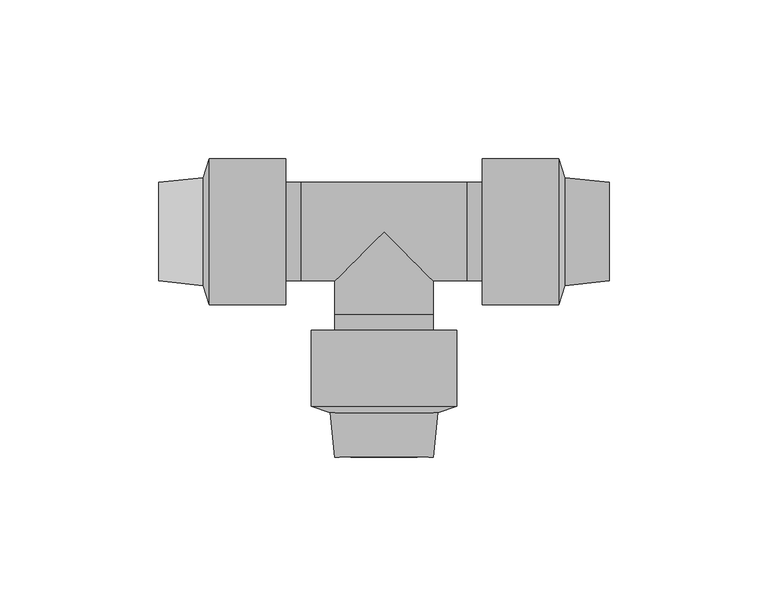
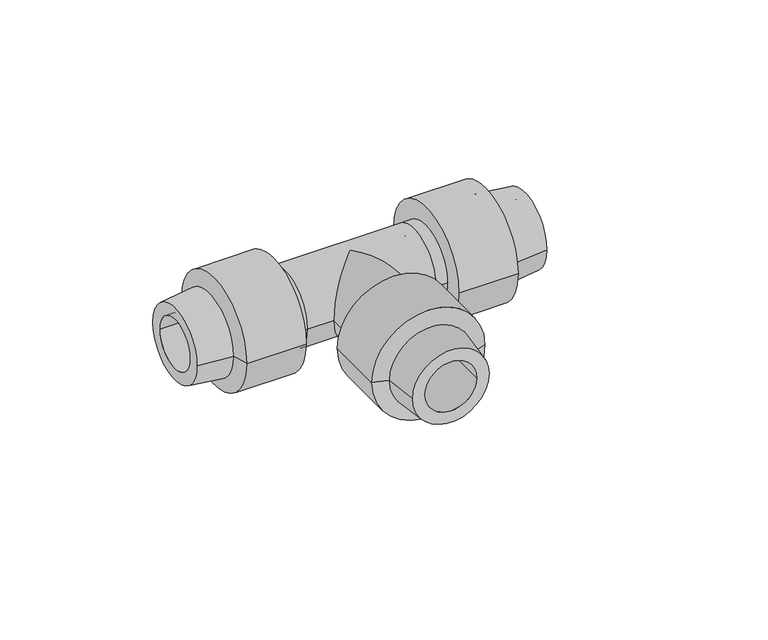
"""IFC4 building model written with IfcOpenShell, lengths in millimetres: pipe fitting geometry, Pipelife - PE - Trójnik : Pipelife - PE - Trójnik."""

from ifc_helpers import new_model, si_unit, frame, origin, place, context, project, spatial, polyline, circle_curve, ellipse_curve, source, transform, mapped, element, save
from ifc_brep_helpers import plane_surface, cylinder_surface, revolved_surface, advanced_brep


def pipe_fitting_46814463(model_context):
    return source(origin(), model_context, "Body", "AdvancedBrep", [
        advanced_brep(
        [(-23.0, -31.0, 0.0), (23.0, -31.0, 0.0), (10.5, -31.0, 0.0), (-10.5, -31.0, 0.0), (-23.0, -55.0, 0.0), (23.0, -55.0, 0.0), (-10.5, -71.0, 0.0), (10.5, -71.0, 0.0), (17.0, -57.0, 0.0), (-17.0, -57.0, 0.0), (-15.5, -71.0, 0.0), (15.5, -71.0, 0.0)],
        [
            (0, 1, circle_curve(frame((0.0, -31.0, 0.0), z_axis=(0.0, 1.0, 0.0), x_axis=(1.0, 0.0, 0.0)), 23.0)),
            (1, 0, circle_curve(frame((0.0, -31.0, 0.0), z_axis=(0.0, 1.0, 0.0), x_axis=(1.0, 0.0, 0.0)), 23.0)),
            (2, 3, circle_curve(frame((0.0, -31.0, 0.0), z_axis=(0.0, -1.0, 0.0), x_axis=(1.0, 0.0, 0.0)), 10.5)),
            (3, 2, circle_curve(frame((0.0, -31.0, 0.0), z_axis=(0.0, -1.0, 0.0), x_axis=(1.0, 0.0, 0.0)), 10.5)),
            (0, 4),
            (4, 5, circle_curve(frame((0.0, -55.0, 0.0), z_axis=(0.0, 1.0, 0.0), x_axis=(1.0, 0.0, 0.0)), 23.0)),
            (5, 1),
            (5, 4, circle_curve(frame((0.0, -55.0, 0.0), z_axis=(0.0, 1.0, 0.0), x_axis=(1.0, 0.0, 0.0)), 23.0)),
            (6, 3),
            (2, 7),
            (7, 6, circle_curve(frame((0.0, -71.0, 0.0), z_axis=(0.0, -1.0, 0.0), x_axis=(1.0, 0.0, 0.0)), 10.5)),
            (6, 7, circle_curve(frame((0.0, -71.0, 0.0), z_axis=(0.0, -1.0, 0.0), x_axis=(1.0, 0.0, 0.0)), 10.5)),
            (5, 8),
            (8, 9, circle_curve(frame((0.0, -57.0, 0.0), z_axis=(0.0, 1.0, 0.0), x_axis=(-1.0, 0.0, 0.0)), 17.0)),
            (9, 4),
            (9, 8, circle_curve(frame((0.0, -57.0, 0.0), z_axis=(0.0, 1.0, 0.0), x_axis=(1.0, 0.0, 0.0)), 17.0)),
            (10, 11, circle_curve(frame((0.0, -71.0, 0.0), z_axis=(0.0, -1.0, 0.0), x_axis=(-1.0, 0.0, 0.0)), 15.5)),
            (11, 10, circle_curve(frame((0.0, -71.0, 0.0), z_axis=(0.0, -1.0, 0.0), x_axis=(1.0, 0.0, 0.0)), 15.5)),
            (10, 9),
            (8, 11),
        ],
        [
            plane_surface(frame((0.0, -31.0, 0.0), z_axis=(0.0, 1.0, 0.0), x_axis=(0.0, 0.0, 1.0))),
            cylinder_surface(frame((0.0, -31.0, 0.0), z_axis=(0.0, 1.0, 0.0), x_axis=(1.0, 0.0, 0.0)), 23.0),
            revolved_surface(polyline([(10.5, -31.0, 0.0), (10.5, -71.0, 0.0)]), (0.0, -14.0, 0.0), (0.0, 1.0, 0.0)),
            revolved_surface(polyline([(17.00000002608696, -57.0, 0.0), (23.0, -55.0, 0.0)]), (0.0, -62.6666667, 0.0), (0.0, 1.0, 0.0)),
            plane_surface(frame((0.0, -71.0, 0.0), z_axis=(0.0, -1.0, 0.0), x_axis=(0.0, 0.0, -1.0))),
            revolved_surface(polyline([(-15.500000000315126, -71.0, 0.0), (-17.0, -57.0, 0.0)]), (0.0, -215.6666667, 0.0), (0.0, 1.0, 0.0)),
            revolved_surface(polyline([(15.500000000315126, -71.0, 0.0), (17.0, -57.0, 0.0)]), (0.0, -215.6666667, 0.0), (0.0, 1.0, 0.0)),
        ],
        [
            (0, [[1, 2], [3, 4]]),
            (1, [[-1, 5, 6, 7]]),
            (1, [[-2, -7, 8, -5]]),
            (2, [[9, -3, 10, 11]]),
            (2, [[-9, 12, -10, -4]]),
            (3, [[13, 14, 15, -8]]),
            (3, [[-13, -6, -15, 16]]),
            (4, [[17, 18], [-11, -12]]),
            (5, [[-17, 19, -14, 20]]),
            (6, [[-18, -20, -16, -19]]),
        ],
    ),
        advanced_brep(
        [(31.0, -23.0, 0.0), (31.0, 23.0, 0.0), (31.0, 10.5, 0.0), (31.0, -10.5, 0.0), (55.0, -23.0, 0.0), (55.0, 23.0, 0.0), (71.0, -10.5, 0.0), (71.0, 10.5, 0.0), (57.0, 17.0, 0.0), (57.0, -17.0, 0.0), (71.0, -15.5, 0.0), (71.0, 15.5, 0.0)],
        [
            (0, 1, circle_curve(frame((31.0, 0.0, 0.0), z_axis=(-1.0, 0.0, 0.0), x_axis=(0.0, 1.0, 0.0)), 23.0)),
            (1, 0, circle_curve(frame((31.0, 0.0, 0.0), z_axis=(-1.0, 0.0, 0.0), x_axis=(0.0, 1.0, 0.0)), 23.0)),
            (2, 3, circle_curve(frame((31.0, 0.0, 0.0), z_axis=(1.0, 0.0, 0.0), x_axis=(0.0, 1.0, 0.0)), 10.5)),
            (3, 2, circle_curve(frame((31.0, 0.0, 0.0), z_axis=(1.0, 0.0, 0.0), x_axis=(0.0, 1.0, 0.0)), 10.5)),
            (0, 4),
            (4, 5, circle_curve(frame((55.0, 0.0, 0.0), z_axis=(-1.0, 0.0, 0.0), x_axis=(0.0, 1.0, 0.0)), 23.0)),
            (5, 1),
            (5, 4, circle_curve(frame((55.0, 0.0, 0.0), z_axis=(-1.0, 0.0, 0.0), x_axis=(0.0, 1.0, 0.0)), 23.0)),
            (6, 3),
            (2, 7),
            (7, 6, circle_curve(frame((71.0, 0.0, 0.0), z_axis=(1.0, 0.0, 0.0), x_axis=(0.0, 1.0, 0.0)), 10.5)),
            (6, 7, circle_curve(frame((71.0, 0.0, 0.0), z_axis=(1.0, 0.0, 0.0), x_axis=(0.0, 1.0, 0.0)), 10.5)),
            (5, 8),
            (8, 9, circle_curve(frame((57.0, 0.0, 0.0), z_axis=(-1.0, 0.0, 0.0), x_axis=(0.0, -1.0, 0.0)), 17.0)),
            (9, 4),
            (9, 8, circle_curve(frame((57.0, 0.0, 0.0), z_axis=(-1.0, 0.0, 0.0), x_axis=(0.0, 1.0, 0.0)), 17.0)),
            (10, 11, circle_curve(frame((71.0, 0.0, 0.0), z_axis=(1.0, 0.0, 0.0), x_axis=(0.0, -1.0, 0.0)), 15.5)),
            (11, 10, circle_curve(frame((71.0, 0.0, 0.0), z_axis=(1.0, 0.0, 0.0), x_axis=(0.0, 1.0, 0.0)), 15.5)),
            (10, 9),
            (8, 11),
        ],
        [
            plane_surface(frame((31.0, 0.0, 0.0), z_axis=(-1.0, 0.0, 0.0), x_axis=(0.0, 0.0, 1.0))),
            cylinder_surface(frame((31.0, 0.0, 0.0), z_axis=(-1.0, 0.0, 0.0), x_axis=(0.0, 1.0, 0.0)), 23.0),
            revolved_surface(polyline([(31.0, 10.5, 0.0), (71.0, 10.5, 0.0)]), (14.0, 0.0, 0.0), (-1.0, 0.0, 0.0)),
            revolved_surface(polyline([(57.0, 17.00000002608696, 0.0), (55.0, 23.0, 0.0)]), (62.6666667, 0.0, 0.0), (-1.0, 0.0, 0.0)),
            plane_surface(frame((71.0, 0.0, 0.0), z_axis=(1.0, 0.0, 0.0), x_axis=(0.0, 0.0, -1.0))),
            revolved_surface(polyline([(71.0, -15.500000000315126, 0.0), (57.0, -17.0, 0.0)]), (215.6666667, 0.0, 0.0), (-1.0, 0.0, 0.0)),
            revolved_surface(polyline([(71.0, 15.500000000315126, 0.0), (57.0, 17.0, 0.0)]), (215.6666667, 0.0, 0.0), (-1.0, 0.0, 0.0)),
        ],
        [
            (0, [[1, 2], [3, 4]]),
            (1, [[-1, 5, 6, 7]]),
            (1, [[-2, -7, 8, -5]]),
            (2, [[9, -3, 10, 11]]),
            (2, [[-9, 12, -10, -4]]),
            (3, [[13, 14, 15, -8]]),
            (3, [[-13, -6, -15, 16]]),
            (4, [[17, 18], [-11, -12]]),
            (5, [[-17, 19, -14, 20]]),
            (6, [[-18, -20, -16, -19]]),
        ],
    ),
        advanced_brep(
        [(-31.0, -23.0, 0.0), (-31.0, 23.0, 0.0), (-31.0, -10.5, 0.0), (-31.0, 10.5, 0.0), (-55.0, 23.0, 0.0), (-55.0, -23.0, 0.0), (-71.0, -10.5, 0.0), (-71.0, 10.5, 0.0), (-57.0, -17.0, 0.0), (-57.0, 17.0, 0.0), (-71.0, 15.5, 0.0), (-71.0, -15.5, 0.0)],
        [
            (0, 1, circle_curve(frame((-31.0, 0.0, 0.0), z_axis=(1.0, 0.0, 0.0), x_axis=(0.0, 1.0, 0.0)), 23.0)),
            (1, 0, circle_curve(frame((-31.0, 0.0, 0.0), z_axis=(1.0, 0.0, 0.0), x_axis=(0.0, 1.0, 0.0)), 23.0)),
            (2, 3, circle_curve(frame((-31.0, 0.0, 0.0), z_axis=(-1.0, 0.0, 0.0), x_axis=(0.0, 1.0, 0.0)), 10.5)),
            (3, 2, circle_curve(frame((-31.0, 0.0, 0.0), z_axis=(-1.0, 0.0, 0.0), x_axis=(0.0, 1.0, 0.0)), 10.5)),
            (1, 4),
            (4, 5, circle_curve(frame((-55.0, 0.0, 0.0), z_axis=(1.0, 0.0, 0.0), x_axis=(0.0, 1.0, 0.0)), 23.0)),
            (5, 0),
            (5, 4, circle_curve(frame((-55.0, 0.0, 0.0), z_axis=(1.0, 0.0, 0.0), x_axis=(0.0, 1.0, 0.0)), 23.0)),
            (2, 6),
            (6, 7, circle_curve(frame((-71.0, 0.0, 0.0), z_axis=(-1.0, 0.0, 0.0), x_axis=(0.0, 1.0, 0.0)), 10.5)),
            (7, 3),
            (7, 6, circle_curve(frame((-71.0, 0.0, 0.0), z_axis=(-1.0, 0.0, 0.0), x_axis=(0.0, 1.0, 0.0)), 10.5)),
            (5, 8),
            (8, 9, circle_curve(frame((-57.0, 0.0, 0.0), z_axis=(1.0, 0.0, 0.0), x_axis=(0.0, 1.0, 0.0)), 17.0)),
            (9, 4),
            (9, 8, circle_curve(frame((-57.0, 0.0, 0.0), z_axis=(1.0, 0.0, 0.0), x_axis=(0.0, -1.0, 0.0)), 17.0)),
            (10, 11, circle_curve(frame((-71.0, 0.0, 0.0), z_axis=(-1.0, 0.0, 0.0), x_axis=(0.0, 1.0, 0.0)), 15.5)),
            (11, 10, circle_curve(frame((-71.0, 0.0, 0.0), z_axis=(-1.0, 0.0, 0.0), x_axis=(0.0, -1.0, 0.0)), 15.5)),
            (10, 9),
            (8, 11),
        ],
        [
            plane_surface(frame((-31.0, 0.0, 0.0), z_axis=(1.0, 0.0, 0.0), x_axis=(0.0, 0.0, 1.0))),
            cylinder_surface(frame((-55.0, 0.0, 0.0), z_axis=(-1.0, 0.0, 0.0), x_axis=(0.0, 1.0, 0.0)), 23.0),
            revolved_surface(polyline([(-71.0, 10.5, 0.0), (-31.0, 10.5, 0.0)]), (-71.0, 0.0, 0.0), (-1.0, 0.0, 0.0)),
            revolved_surface(polyline([(-57.0, -17.00000002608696, 0.0), (-55.0, -23.0, 0.0)]), (-62.6666667, 0.0, 0.0), (1.0, 0.0, 0.0)),
            plane_surface(frame((-71.0, 0.0, 0.0), z_axis=(-1.0, 0.0, 0.0), x_axis=(0.0, 0.0, -1.0))),
            revolved_surface(polyline([(-71.0, 15.500000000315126, 0.0), (-57.0, 17.0, 0.0)]), (-215.6666667, 0.0, 0.0), (1.0, 0.0, 0.0)),
            revolved_surface(polyline([(-71.0, -15.500000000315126, 0.0), (-57.0, -17.0, 0.0)]), (-215.6666667, 0.0, 0.0), (1.0, 0.0, 0.0)),
        ],
        [
            (0, [[1, 2], [3, 4]]),
            (1, [[-2, 5, 6, 7]]),
            (1, [[-1, -7, 8, -5]]),
            (2, [[9, 10, 11, -3]]),
            (2, [[-9, -4, -11, 12]]),
            (3, [[13, 14, 15, -8]]),
            (3, [[-13, -6, -15, 16]]),
            (4, [[17, 18], [-10, -12]]),
            (5, [[-17, 19, -14, 20]]),
            (6, [[-18, -20, -16, -19]]),
        ],
    ),
        advanced_brep(
        [(26.0, 15.5, 0.0), (-26.0, 15.5, 0.0), (-26.0, -15.5, 0.0), (-15.5, -15.5, 0.0), (0.0, 0.0, 15.5), (15.5, -15.5, 0.0), (26.0, -15.5, 0.0), (0.0, 0.0, -15.5), (15.5, -26.0, 0.0), (-15.5, -26.0, 0.0), (-14.0, -10.5, 0.0), (-14.0, 10.5, 0.0), (-31.0, -10.5, 0.0), (-31.0, 10.5, 0.0), (14.0, -10.5, 0.0), (14.0, 10.5, 0.0), (26.0, 10.5, 0.0), (26.0, -10.5, 0.0), (-10.5, -14.0, 0.0), (10.5, -14.0, 0.0), (10.5, -26.0, 0.0), (-10.5, -26.0, 0.0), (-31.0, -15.5, 0.0), (-31.0, 15.5, 0.0), (31.0, -15.5, 0.0), (31.0, 15.5, 0.0), (31.0, -10.5, 0.0), (31.0, 10.5, 0.0), (-15.5, -31.0, 0.0), (15.5, -31.0, 0.0), (-10.5, -31.0, 0.0), (10.5, -31.0, 0.0)],
        [
            (0, 1),
            (1, 2, circle_curve(frame((-26.0, 0.0, 0.0), z_axis=(1.0, 0.0, 0.0), x_axis=(0.0, 1.0, 0.0)), 15.5)),
            (2, 3),
            (3, 4, ellipse_curve(frame((0.0, 0.0, 0.0), z_axis=(-0.7071067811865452, 0.7071067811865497, 0.0), x_axis=(-0.7071067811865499, -0.707106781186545, 0.0)), 21.9203102, 15.5)),
            (4, 5, ellipse_curve(frame((0.0, 0.0, 0.0), z_axis=(0.7071067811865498, 0.7071067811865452, 0.0), x_axis=(-0.7071067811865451, 0.7071067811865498, 0.0)), 21.9203102, 15.5)),
            (5, 6),
            (6, 0, circle_curve(frame((26.0, 0.0, 0.0), z_axis=(-1.0, 0.0, 0.0), x_axis=(0.0, 1.0, 0.0)), 15.5)),
            (0, 6, circle_curve(frame((26.0, 0.0, 0.0), z_axis=(-1.0, 0.0, 0.0), x_axis=(0.0, 1.0, 0.0)), 15.5)),
            (5, 7, ellipse_curve(frame((0.0, 0.0, 0.0), z_axis=(0.7071067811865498, 0.7071067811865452, 0.0), x_axis=(-0.7071067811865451, 0.7071067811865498, 0.0)), 21.9203102, 15.5)),
            (7, 3, ellipse_curve(frame((0.0, 0.0, 0.0), z_axis=(-0.7071067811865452, 0.7071067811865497, 0.0), x_axis=(-0.7071067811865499, -0.707106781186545, 0.0)), 21.9203102, 15.5)),
            (2, 1, circle_curve(frame((-26.0, 0.0, 0.0), z_axis=(1.0, 0.0, 0.0), x_axis=(0.0, 1.0, 0.0)), 15.5)),
            (8, 5),
            (3, 9),
            (9, 8, circle_curve(frame((0.0, -26.0, 0.0), z_axis=(0.0, 1.0, 0.0), x_axis=(1.0, 0.0, 0.0)), 15.5)),
            (8, 9, circle_curve(frame((0.0, -26.0, 0.0), z_axis=(0.0, 1.0, 0.0), x_axis=(1.0, 0.0, 0.0)), 15.5)),
            (10, 11, circle_curve(frame((-14.0, 0.0, 0.0), z_axis=(-1.0, 0.0, 0.0), x_axis=(0.0, 1.0, 0.0)), 10.5)),
            (11, 10, circle_curve(frame((-14.0, 0.0, 0.0), z_axis=(-1.0, 0.0, 0.0), x_axis=(0.0, 1.0, 0.0)), 10.5)),
            (10, 12),
            (12, 13, circle_curve(frame((-31.0, 0.0, 0.0), z_axis=(-1.0, 0.0, 0.0), x_axis=(0.0, 1.0, 0.0)), 10.5)),
            (13, 11),
            (13, 12, circle_curve(frame((-31.0, 0.0, 0.0), z_axis=(-1.0, 0.0, 0.0), x_axis=(0.0, 1.0, 0.0)), 10.5)),
            (14, 15, circle_curve(frame((14.0, 0.0, 0.0), z_axis=(1.0, 0.0, 0.0), x_axis=(0.0, 1.0, 0.0)), 10.5)),
            (15, 14, circle_curve(frame((14.0, 0.0, 0.0), z_axis=(1.0, 0.0, 0.0), x_axis=(0.0, 1.0, 0.0)), 10.5)),
            (15, 16),
            (16, 17, circle_curve(frame((26.0, 0.0, 0.0), z_axis=(1.0, 0.0, 0.0), x_axis=(0.0, 1.0, 0.0)), 10.5)),
            (17, 14),
            (17, 16, circle_curve(frame((26.0, 0.0, 0.0), z_axis=(1.0, 0.0, 0.0), x_axis=(0.0, 1.0, 0.0)), 10.5)),
            (18, 19, circle_curve(frame((0.0, -14.0, 0.0), z_axis=(0.0, -1.0, 0.0), x_axis=(1.0, 0.0, 0.0)), 10.5)),
            (19, 18, circle_curve(frame((0.0, -14.0, 0.0), z_axis=(0.0, -1.0, 0.0), x_axis=(1.0, 0.0, 0.0)), 10.5)),
            (19, 20),
            (20, 21, circle_curve(frame((0.0, -26.0, 0.0), z_axis=(0.0, -1.0, 0.0), x_axis=(1.0, 0.0, 0.0)), 10.5)),
            (21, 18),
            (21, 20, circle_curve(frame((0.0, -26.0, 0.0), z_axis=(0.0, -1.0, 0.0), x_axis=(1.0, 0.0, 0.0)), 10.5)),
            (22, 23, circle_curve(frame((-31.0, 0.0, 0.0), z_axis=(-1.0, 0.0, 0.0), x_axis=(0.0, 1.0, 0.0)), 15.5)),
            (23, 22, circle_curve(frame((-31.0, 0.0, 0.0), z_axis=(-1.0, 0.0, 0.0), x_axis=(0.0, 1.0, 0.0)), 15.5)),
            (22, 2),
            (1, 23),
            (24, 25, circle_curve(frame((31.0, 0.0, 0.0), z_axis=(1.0, 0.0, 0.0), x_axis=(0.0, 1.0, 0.0)), 15.5)),
            (25, 24, circle_curve(frame((31.0, 0.0, 0.0), z_axis=(1.0, 0.0, 0.0), x_axis=(0.0, 1.0, 0.0)), 15.5)),
            (26, 27, circle_curve(frame((31.0, 0.0, 0.0), z_axis=(-1.0, 0.0, 0.0), x_axis=(0.0, 1.0, 0.0)), 10.5)),
            (27, 26, circle_curve(frame((31.0, 0.0, 0.0), z_axis=(-1.0, 0.0, 0.0), x_axis=(0.0, 1.0, 0.0)), 10.5)),
            (25, 0),
            (6, 24),
            (26, 17),
            (16, 27),
            (28, 29, circle_curve(frame((0.0, -31.0, 0.0), z_axis=(0.0, -1.0, 0.0), x_axis=(1.0, 0.0, 0.0)), 15.5)),
            (29, 28, circle_curve(frame((0.0, -31.0, 0.0), z_axis=(0.0, -1.0, 0.0), x_axis=(1.0, 0.0, 0.0)), 15.5)),
            (30, 31, circle_curve(frame((0.0, -31.0, 0.0), z_axis=(0.0, 1.0, 0.0), x_axis=(1.0, 0.0, 0.0)), 10.5)),
            (31, 30, circle_curve(frame((0.0, -31.0, 0.0), z_axis=(0.0, 1.0, 0.0), x_axis=(1.0, 0.0, 0.0)), 10.5)),
            (29, 8),
            (9, 28),
            (30, 21),
            (20, 31),
        ],
        [
            cylinder_surface(frame((-26.0, 0.0, 0.0), z_axis=(-1.0, 0.0, 0.0), x_axis=(0.0, 1.0, 0.0)), 15.5),
            cylinder_surface(frame((0.0, 0.0, 0.0), z_axis=(0.0, 1.0, 0.0), x_axis=(1.0, 0.0, 0.0)), 15.5),
            plane_surface(frame((-14.0, 0.0, 0.0), z_axis=(-1.0, 0.0, 0.0), x_axis=(0.0, 0.0, 1.0))),
            revolved_surface(polyline([(-31.0, 10.5, 0.0), (-14.0, 10.5, 0.0)]), (-71.0, 0.0, 0.0), (-1.0, 0.0, 0.0)),
            plane_surface(frame((14.0, 0.0, 0.0), z_axis=(1.0, 0.0, 0.0), x_axis=(0.0, 0.0, 1.0))),
            revolved_surface(polyline([(14.0, 10.5, 0.0), (26.0, 10.5, 0.0)]), (14.0, 0.0, 0.0), (-1.0, 0.0, 0.0)),
            plane_surface(frame((0.0, -14.0, 0.0), z_axis=(0.0, -1.0, 0.0), x_axis=(0.0, 0.0, 1.0))),
            revolved_surface(polyline([(10.5, -14.0, 0.0), (10.5, -26.0, 0.0)]), (0.0, -14.0, 0.0), (0.0, 1.0, 0.0)),
            plane_surface(frame((-31.0, 0.0, 0.0), z_axis=(-1.0, 0.0, 0.0), x_axis=(0.0, 0.0, 1.0))),
            cylinder_surface(frame((-31.0, 0.0, 0.0), z_axis=(-1.0, 0.0, 0.0), x_axis=(0.0, 1.0, 0.0)), 15.5),
            plane_surface(frame((31.0, 0.0, 0.0), z_axis=(1.0, 0.0, 0.0), x_axis=(0.0, 0.0, 1.0))),
            cylinder_surface(frame((26.0, 0.0, 0.0), z_axis=(-1.0, 0.0, 0.0), x_axis=(0.0, 1.0, 0.0)), 15.5),
            revolved_surface(polyline([(26.0, 10.5, 0.0), (31.0, 10.5, 0.0)]), (14.0, 0.0, 0.0), (-1.0, 0.0, 0.0)),
            plane_surface(frame((0.0, -31.0, 0.0), z_axis=(0.0, -1.0, 0.0), x_axis=(0.0, 0.0, 1.0))),
            cylinder_surface(frame((0.0, -26.0, 0.0), z_axis=(0.0, 1.0, 0.0), x_axis=(1.0, 0.0, 0.0)), 15.5),
            revolved_surface(polyline([(10.5, -26.0, 0.0), (10.5, -31.0, 0.0)]), (0.0, -14.0, 0.0), (0.0, 1.0, 0.0)),
        ],
        [
            (0, [[1, 2, 3, 4, 5, 6, 7]]),
            (0, [[-1, 8, -6, 9, 10, -3, 11]]),
            (1, [[12, -5, -4, 13, 14]]),
            (1, [[-12, 15, -13, -10, -9]]),
            (2, [[16, 17]]),
            (3, [[-16, 18, 19, 20]]),
            (3, [[-17, -20, 21, -18]]),
            (4, [[22, 23]]),
            (5, [[-23, 24, 25, 26]]),
            (5, [[-22, -26, 27, -24]]),
            (6, [[28, 29]]),
            (7, [[-29, 30, 31, 32]]),
            (7, [[-28, -32, 33, -30]]),
            (8, [[34, 35], [-19, -21]]),
            (9, [[-34, 36, -2, 37]]),
            (9, [[-35, -37, -11, -36]]),
            (10, [[38, 39], [40, 41]]),
            (11, [[-39, 42, -7, 43]]),
            (11, [[-38, -43, -8, -42]]),
            (12, [[44, -25, 45, -40]]),
            (12, [[-44, -41, -45, -27]]),
            (13, [[46, 47], [48, 49]]),
            (14, [[-47, 50, -14, 51]]),
            (14, [[-46, -51, -15, -50]]),
            (15, [[52, -31, 53, -48]]),
            (15, [[-52, -49, -53, -33]]),
        ],
    ),
    ])


if __name__ == "__main__":
    model = new_model("IFC4")
    model_context = context("Model", 3, world=origin())
    ifc_project = project(units=[si_unit("LENGTHUNIT", "METRE", prefix="MILLI")], contexts=[model_context])
    site = spatial("IfcSite", under=ifc_project)
    building = spatial("IfcBuilding", under=site)
    placement = place(None, origin())
    pipe_fitting_shape = pipe_fitting_46814463(model_context)
    element("IfcPipeFitting", 1, ObjectType="Pipelife - PE - Trójnik : Pipelife - PE - Trójnik", at=placement, inside=building, context=model_context, shape_type="MappedRepresentation", body=[
        mapped(pipe_fitting_shape, transform((0.0, 0.0, 0.0), x_axis=(1.0, 0.0, 0.0), y_axis=(0.0, 1.0, 0.0), z_axis=(0.0, 0.0, 1.0))),
    ])
    save(model, "model.ifc")
